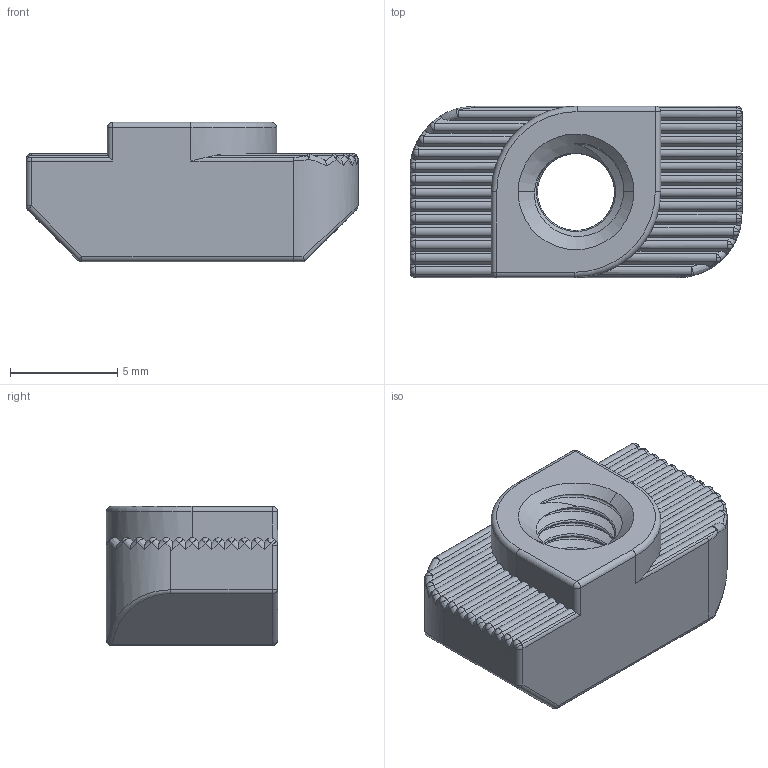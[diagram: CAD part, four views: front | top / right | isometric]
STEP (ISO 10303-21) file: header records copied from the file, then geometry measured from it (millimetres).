
FILE_DESCRIPTION (( 'STEP AP214' ), '1' );
FILE_NAME ('5005.STEP', '2016-01-20T16:06:22', ( '' ), ( '' ), 'SwSTEP 2.0', 'SolidWorks 2014', '' );
FILE_SCHEMA (( 'AUTOMOTIVE_DESIGN' ));
Length unit declared in the file: millimetre
Products named in the file (1): 5005
Bounding box: 15.5 x 8 x 6.5 mm (x, y, z)
Volume: 550 mm3; surface area: 580.3 mm2
Topology: 1 solids, 1 shells, 224 faces, 537 edges, 308 vertices
Faces by surface type: cylinder 82, plane 62, sphere 47, bspline 27, torus 4, cone 2
Entity records: 10413 total; most frequent: CARTESIAN_POINT 5646, ORIENTED_EDGE 1060, DIRECTION 944, EDGE_CURVE 530, AXIS2_PLACEMENT_3D 365, VERTEX_POINT 308, EDGE_LOOP 226, ADVANCED_FACE 224
